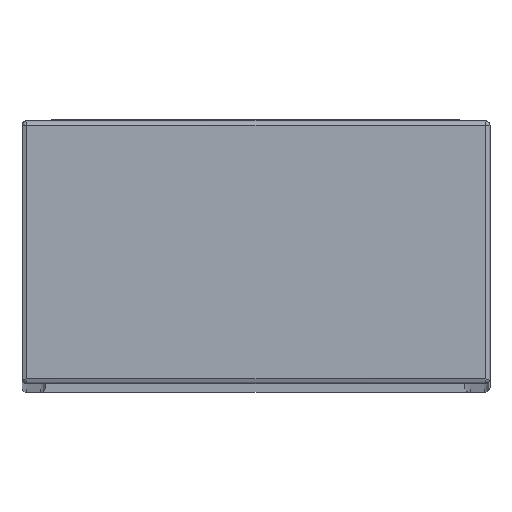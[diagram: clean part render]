
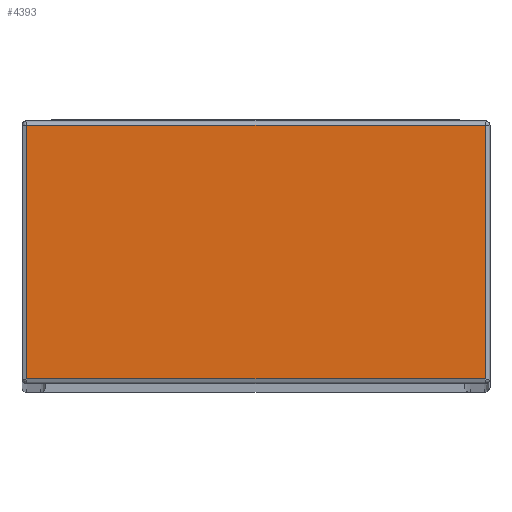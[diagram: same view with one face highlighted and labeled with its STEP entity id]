
A CAD part, top view. The second image highlights one B-rep face of the part: STEP entity #4393.
In plain terms, the highlighted planar face has unit normal (0, 0, 1).
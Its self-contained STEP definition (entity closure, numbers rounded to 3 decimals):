
#43 = EDGE_LOOP ( 'NONE', ( #4553, #1832, #3443, #2324 ) ) ;
#68 = CARTESIAN_POINT ( 'NONE',  ( -9.585, 9.016, 2. ) ) ;
#252 = DIRECTION ( 'NONE',  ( -1., 0., 0. ) ) ;
#466 = EDGE_CURVE ( 'NONE', #3235, #4108, #2852, .T. ) ;
#476 = DIRECTION ( 'NONE',  ( 1., 0., 0. ) ) ;
#517 = LINE ( 'NONE', #2279, #3116 ) ;
#543 = VECTOR ( 'NONE', #1080, 1000. ) ;
#565 = CARTESIAN_POINT ( 'NONE',  ( -9.729, 9.016, 2. ) ) ;
#631 = DIRECTION ( 'NONE',  ( 0., 1., 0. ) ) ;
#757 = FACE_OUTER_BOUND ( 'NONE', #43, .T. ) ;
#841 = VERTEX_POINT ( 'NONE', #3287 ) ;
#974 = VERTEX_POINT ( 'NONE', #68 ) ;
#1034 = EDGE_CURVE ( 'NONE', #4108, #974, #1719, .T. ) ;
#1080 = DIRECTION ( 'NONE',  ( 0., -1., 0. ) ) ;
#1442 = CARTESIAN_POINT ( 'NONE',  ( 9.585, -1.728, 2. ) ) ;
#1719 = LINE ( 'NONE', #565, #1777 ) ;
#1760 = CARTESIAN_POINT ( 'NONE',  ( -9.729, -1.728, 2. ) ) ;
#1777 = VECTOR ( 'NONE', #252, 1000. ) ;
#1786 = PLANE ( 'NONE',  #2963 ) ;
#1832 = ORIENTED_EDGE ( 'NONE', *, *, #4015, .T. ) ;
#1939 = CARTESIAN_POINT ( 'NONE',  ( 9.585, 9.016, 2. ) ) ;
#2279 = CARTESIAN_POINT ( 'NONE',  ( -9.729, -1.584, 2. ) ) ;
#2324 = ORIENTED_EDGE ( 'NONE', *, *, #466, .T. ) ;
#2519 = LINE ( 'NONE', #4404, #543 ) ;
#2852 = LINE ( 'NONE', #1442, #3578 ) ;
#2963 = AXIS2_PLACEMENT_3D ( 'NONE', #1760, #3319, #3270 ) ;
#3116 = VECTOR ( 'NONE', #476, 1000. ) ;
#3235 = VERTEX_POINT ( 'NONE', #3241 ) ;
#3241 = CARTESIAN_POINT ( 'NONE',  ( 9.585, -1.584, 2. ) ) ;
#3270 = DIRECTION ( 'NONE',  ( -1., 0., 0. ) ) ;
#3287 = CARTESIAN_POINT ( 'NONE',  ( -9.585, -1.584, 2. ) ) ;
#3319 = DIRECTION ( 'NONE',  ( 0., 0., -1. ) ) ;
#3443 = ORIENTED_EDGE ( 'NONE', *, *, #3684, .T. ) ;
#3578 = VECTOR ( 'NONE', #631, 1000. ) ;
#3684 = EDGE_CURVE ( 'NONE', #841, #3235, #517, .T. ) ;
#4015 = EDGE_CURVE ( 'NONE', #974, #841, #2519, .T. ) ;
#4108 = VERTEX_POINT ( 'NONE', #1939 ) ;
#4393 = ADVANCED_FACE ( 'NONE', ( #757 ), #1786, .F. ) ;
#4404 = CARTESIAN_POINT ( 'NONE',  ( -9.585, -1.728, 2. ) ) ;
#4553 = ORIENTED_EDGE ( 'NONE', *, *, #1034, .T. ) ;
